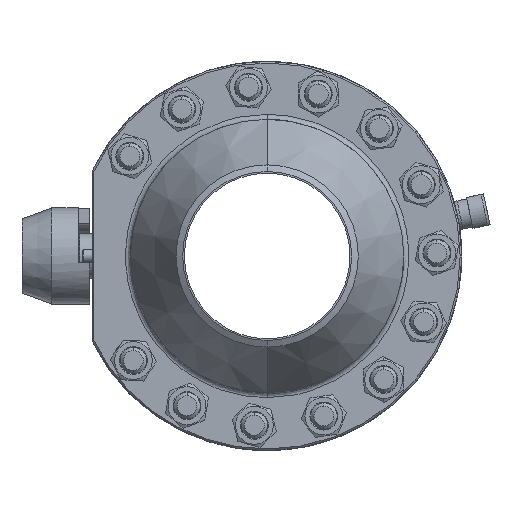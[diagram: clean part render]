
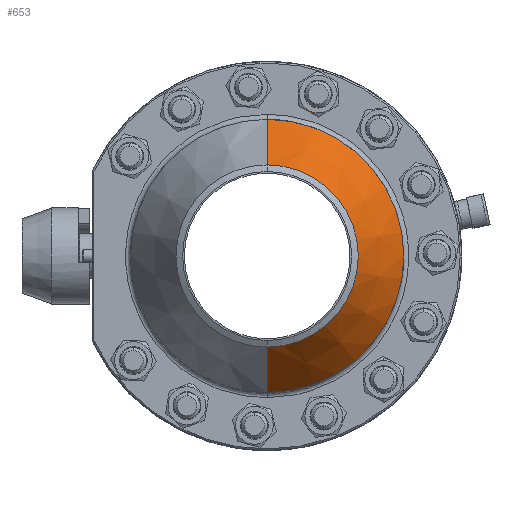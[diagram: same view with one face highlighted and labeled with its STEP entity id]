
A CAD part, left-side view. The second image highlights one B-rep face of the part: STEP entity #653.
In plain terms, the highlighted conical face has half-angle 30 degrees and reference radius 68.75 mm.
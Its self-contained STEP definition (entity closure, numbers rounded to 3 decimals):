
#653=ADVANCED_FACE('',(#3134),#3136,.T.);
#3134=FACE_OUTER_BOUND('',#3135,.T.);
#3135=EDGE_LOOP('',(#9328,#9329,#9330,#9331,#9332,#9333));
#3136=CONICAL_SURFACE('',#3137,68.75,0.524);
#3137=AXIS2_PLACEMENT_3D('',#3138,#3139,#3140);
#3138=CARTESIAN_POINT('',(-98.684,0.,0.));
#3139=DIRECTION('',(1.,-0.,0.));
#3140=DIRECTION('',(0.,0.,-1.));
#9328=ORIENTED_EDGE('',*,*,#13278,.F.);
#9329=ORIENTED_EDGE('',*,*,#13275,.F.);
#9330=ORIENTED_EDGE('',*,*,#13323,.F.);
#9331=ORIENTED_EDGE('',*,*,#13280,.T.);
#9332=ORIENTED_EDGE('',*,*,#13322,.F.);
#9333=ORIENTED_EDGE('',*,*,#13268,.F.);
#13268=EDGE_CURVE('',#15897,#15898,#15899,.T.);
#13275=EDGE_CURVE('',#15908,#15910,#15911,.T.);
#13278=EDGE_CURVE('',#15910,#15897,#15915,.T.);
#13280=EDGE_CURVE('',#15918,#15916,#15919,.T.);
#13322=EDGE_CURVE('',#15898,#15916,#15965,.T.);
#13323=EDGE_CURVE('',#15918,#15908,#15966,.T.);
#15897=VERTEX_POINT('',#22258);
#15898=VERTEX_POINT('',#22259);
#15899=CIRCLE('',#22260,82.5);
#15908=VERTEX_POINT('',#22298);
#15910=VERTEX_POINT('',#22302);
#15911=CIRCLE('',#22303,55.);
#15915=LINE('',#22315,#22316);
#15916=VERTEX_POINT('',#22318);
#15918=VERTEX_POINT('',#22323);
#15919=LINE('',#22324,#22325);
#15965=CIRCLE('',#22527,82.5);
#15966=CIRCLE('',#22531,55.);
#22258=CARTESIAN_POINT('',(-74.869,0.,82.5));
#22259=CARTESIAN_POINT('',(-74.869,-82.5,0.));
#22260=AXIS2_PLACEMENT_3D('',#22261,#22262,#22263);
#22261=CARTESIAN_POINT('',(-74.869,0.,0.));
#22262=DIRECTION('',(1.,0.,0.));
#22263=DIRECTION('',(0.,0.,1.));
#22298=CARTESIAN_POINT('',(-122.5,-55.,0.));
#22302=CARTESIAN_POINT('',(-122.5,0.,55.));
#22303=AXIS2_PLACEMENT_3D('',#22304,#22305,#22306);
#22304=CARTESIAN_POINT('',(-122.5,0.,0.));
#22305=DIRECTION('',(-1.,0.,0.));
#22306=DIRECTION('',(0.,-1.,0.));
#22315=CARTESIAN_POINT('',(-122.5,0.,55.));
#22316=VECTOR('',#22317,1.);
#22317=DIRECTION('',(0.866,0.,0.5));
#22318=CARTESIAN_POINT('',(-74.869,0.,-82.5));
#22323=CARTESIAN_POINT('',(-122.5,0.,-55.));
#22324=CARTESIAN_POINT('',(-122.5,0.,-55.));
#22325=VECTOR('',#22326,1.);
#22326=DIRECTION('',(0.866,0.,-0.5));
#22527=AXIS2_PLACEMENT_3D('',#22528,#22529,#22530);
#22528=CARTESIAN_POINT('',(-74.869,0.,0.));
#22529=DIRECTION('',(1.,0.,0.));
#22530=DIRECTION('',(0.,-1.,0.));
#22531=AXIS2_PLACEMENT_3D('',#22532,#22533,#22534);
#22532=CARTESIAN_POINT('',(-122.5,0.,0.));
#22533=DIRECTION('',(-1.,0.,0.));
#22534=DIRECTION('',(0.,0.,-1.));
